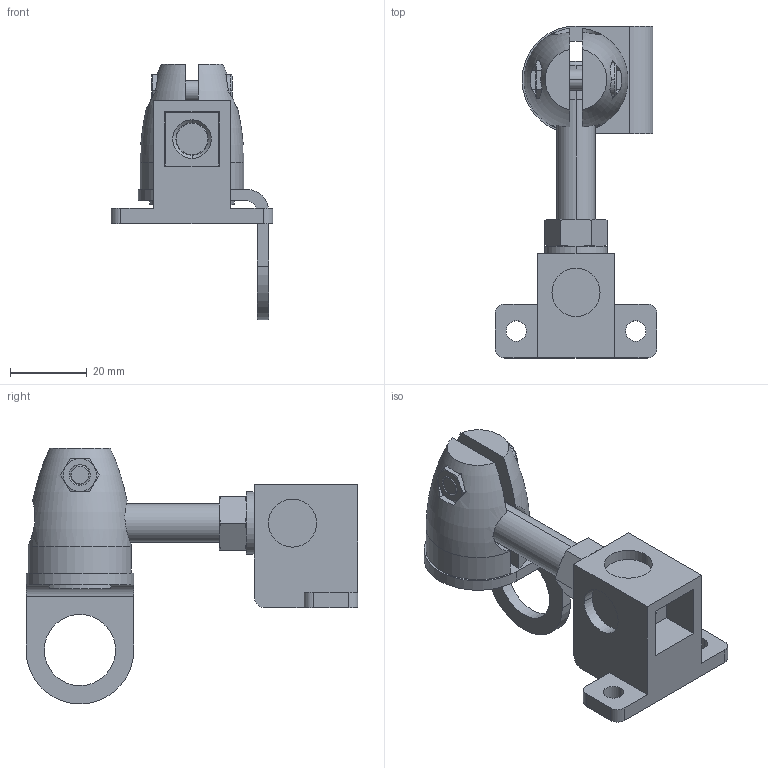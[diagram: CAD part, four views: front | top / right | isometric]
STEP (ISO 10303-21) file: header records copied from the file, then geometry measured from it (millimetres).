
FILE_DESCRIPTION( ( '' ), '1' );
FILE_NAME( '//partserver001.servicenet/client_exchange/iodir/jobs/output/wkb16284863_no3/STEP/e20867_2_03.stp', '2009-05-18T10:43:37', ( '' ), ( '' ), ' ', ' ', ' ' );
FILE_SCHEMA( ( 'CONFIG_CONTROL_DESIGN' ) );
Length unit declared in the file: millimetre
Products named in the file (10): 1; 2; 3; 4; 5; 6; 7; 8; 9; 10
Bounding box: 42 x 86.25 x 66.5 mm (x, y, z)
Volume: 35143.8 mm3; surface area: 20151.6 mm2
Topology: 10 solids, 10 shells, 223 faces, 553 edges, 355 vertices
Faces by surface type: plane 110, cylinder 65, cone 42, torus 6
Entity records: 7289 total; most frequent: CARTESIAN_POINT 1523, DIRECTION 1137, ORIENTED_EDGE 1102, EDGE_CURVE 551, AXIS2_PLACEMENT_3D 425, VERTEX_POINT 355, LINE 287, VECTOR 287
